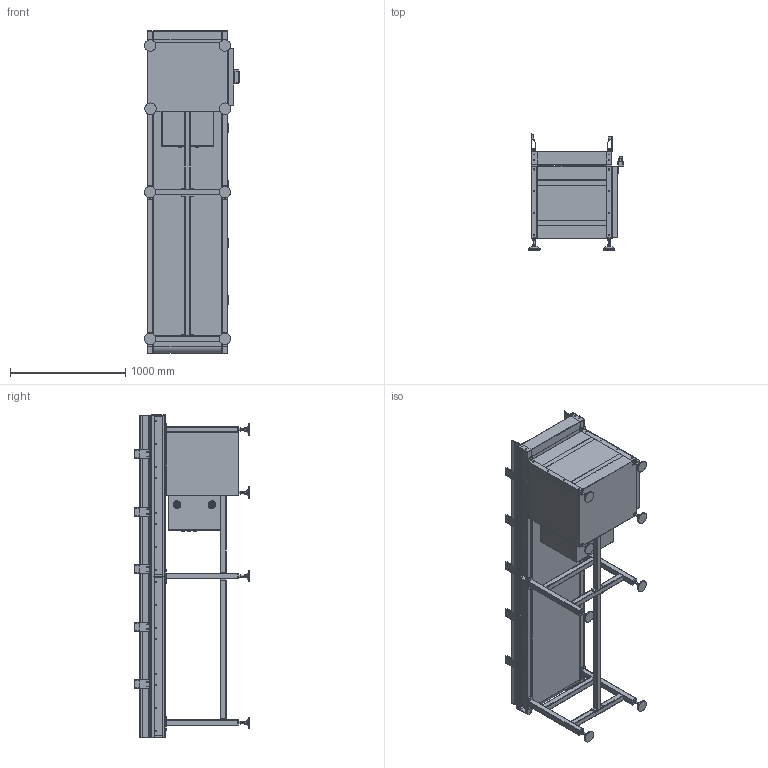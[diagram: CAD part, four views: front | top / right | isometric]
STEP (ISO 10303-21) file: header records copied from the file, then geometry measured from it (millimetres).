
FILE_DESCRIPTION(/* description */ (''),/* implementation_level */ '2;1');
FILE_NAME(/* name */ 'beltconveyor_a025_w600_l3000.stp',/* time_stamp */ '2024-12-16T22:47:21+08:00',/* author */ (''),/* organization */ (''),/* preprocessor_version */ 'ST-DEVELOPER v16.7',/* originating_system */ 'SIEMENS PLM Software NX 12.0',/* authorisation */ '');
FILE_SCHEMA (('AUTOMOTIVE_DESIGN { 1 0 10303 214 3 1 1 1 }'));
Products named in the file (25): 支脚连接板; 支脚_默认_按加工_; 脚杯安装板; 启动按钮; 急停开关按钮; 急停安装支架; 电控箱; 电控箱门; 后封板; 网带; 挡板; 链条挡板; 支脚；连接杆; 前挡板; 脚杯; 铝合金型材_默认_按加工_; 光电支架1; 网带支撑板; 光电支架2; 轨道; 前封板; 支脚架; 启动急停按钮; 电控箱装配体; beltconveyor_a025_w600_l3000
Assembly tree (48 placements, depth 3):
  beltconveyor_a025_w600_l3000
    前封板
    轨道  x4
    光电支架2  x5
    网带支撑板  x4
    光电支架1  x5
    铝合金型材_默认_按加工_  x2
    脚杯  x2
    电控箱装配体
      电控箱门
      电控箱
    前挡板
    支脚；连接杆  x2
    启动急停按钮
      急停安装支架
      急停开关按钮
      启动按钮
    支脚架  x3
      脚杯安装板
      支脚_默认_按加工_
      脚杯
      支脚连接板
    链条挡板
    挡板  x2
    网带
    后封板
Bounding box: 827 x 1007.1 x 2802 mm (x, y, z)
Volume: 44776961.4 mm3; surface area: 26620473.5 mm2
Topology: 118 solids, 118 shells, 3281 faces, 8276 edges, 5266 vertices
Faces by surface type: plane 1402, cylinder 1162, extrusion 369, cone 274, bspline 74
Entity records: 70840 total; most frequent: CARTESIAN_POINT 20897, ORIENTED_EDGE 10090, DIRECTION 8584, EDGE_CURVE 5045, VERTEX_POINT 3252, AXIS2_PLACEMENT_3D 2920, VECTOR 2744, EDGE_LOOP 2479
